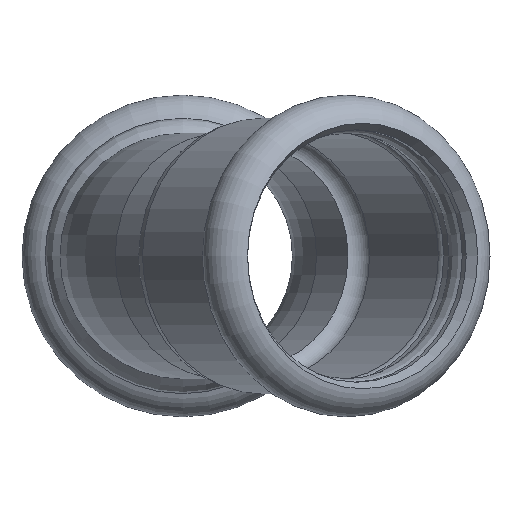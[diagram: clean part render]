
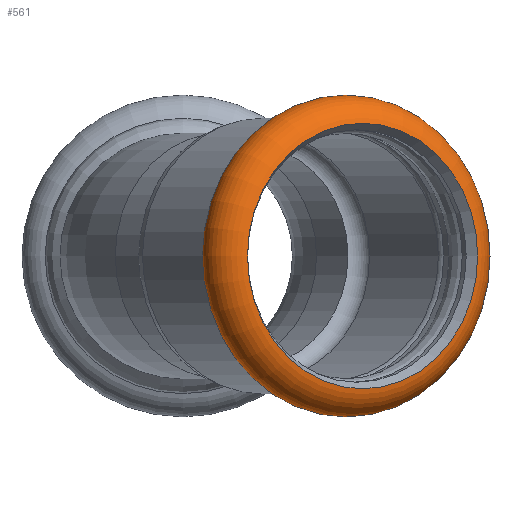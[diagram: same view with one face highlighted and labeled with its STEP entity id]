
A CAD part, left-side view. The second image highlights one B-rep face of the part: STEP entity #561.
In plain terms, the highlighted toroidal (fillet/blend) face has major radius 14.597 mm and minor radius 3.755 mm.
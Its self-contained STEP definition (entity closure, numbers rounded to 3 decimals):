
#57=FACE_OUTER_BOUND('',#83,.T.);
#83=EDGE_LOOP('',(#357,#358,#359,#360,#361,#362,#363,#364));
#109=CIRCLE('',#608,15.15);
#110=CIRCLE('',#609,3.755);
#111=CIRCLE('',#610,15.7);
#112=CIRCLE('',#611,15.7);
#113=CIRCLE('',#612,15.7);
#114=CIRCLE('',#613,15.15);
#115=CIRCLE('',#614,15.15);
#191=VERTEX_POINT('',#949);
#192=VERTEX_POINT('',#950);
#193=VERTEX_POINT('',#952);
#194=VERTEX_POINT('',#954);
#195=VERTEX_POINT('',#956);
#196=VERTEX_POINT('',#959);
#261=EDGE_CURVE('',#191,#192,#109,.T.);
#262=EDGE_CURVE('',#192,#193,#110,.T.);
#263=EDGE_CURVE('',#194,#193,#111,.T.);
#264=EDGE_CURVE('',#195,#194,#112,.T.);
#265=EDGE_CURVE('',#193,#195,#113,.T.);
#266=EDGE_CURVE('',#192,#196,#114,.T.);
#267=EDGE_CURVE('',#196,#191,#115,.T.);
#357=ORIENTED_EDGE('',*,*,#261,.T.);
#358=ORIENTED_EDGE('',*,*,#262,.T.);
#359=ORIENTED_EDGE('',*,*,#263,.F.);
#360=ORIENTED_EDGE('',*,*,#264,.F.);
#361=ORIENTED_EDGE('',*,*,#265,.F.);
#362=ORIENTED_EDGE('',*,*,#262,.F.);
#363=ORIENTED_EDGE('',*,*,#266,.T.);
#364=ORIENTED_EDGE('',*,*,#267,.T.);
#549=TOROIDAL_SURFACE('',#607,14.597,3.755);
#561=ADVANCED_FACE('',(#57),#549,.T.);
#607=AXIS2_PLACEMENT_3D('',#948,#717,#718);
#608=AXIS2_PLACEMENT_3D('',#951,#719,#720);
#609=AXIS2_PLACEMENT_3D('',#953,#721,#722);
#610=AXIS2_PLACEMENT_3D('',#955,#723,#724);
#611=AXIS2_PLACEMENT_3D('',#957,#725,#726);
#612=AXIS2_PLACEMENT_3D('',#958,#727,#728);
#613=AXIS2_PLACEMENT_3D('',#960,#729,#730);
#614=AXIS2_PLACEMENT_3D('',#961,#731,#732);
#717=DIRECTION('center_axis',(-0.866,-0.5,0.));
#718=DIRECTION('ref_axis',(0.,0.,-1.));
#719=DIRECTION('center_axis',(0.866,0.5,0.));
#720=DIRECTION('ref_axis',(-0.5,0.866,0.));
#721=DIRECTION('center_axis',(-0.5,0.866,0.));
#722=DIRECTION('ref_axis',(0.,0.,1.));
#723=DIRECTION('center_axis',(0.866,0.5,0.));
#724=DIRECTION('ref_axis',(-0.5,0.866,0.));
#725=DIRECTION('center_axis',(0.866,0.5,0.));
#726=DIRECTION('ref_axis',(-0.5,0.866,0.));
#727=DIRECTION('center_axis',(0.866,0.5,0.));
#728=DIRECTION('ref_axis',(-0.5,0.866,0.));
#729=DIRECTION('center_axis',(0.866,0.5,0.));
#730=DIRECTION('ref_axis',(-0.5,0.866,0.));
#731=DIRECTION('center_axis',(0.866,0.5,0.));
#732=DIRECTION('ref_axis',(-0.5,0.866,0.));
#948=CARTESIAN_POINT('Origin',(-73.291,-18.643,0.));
#949=CARTESIAN_POINT('',(-84.082,-7.38,0.));
#950=CARTESIAN_POINT('',(-76.507,-20.5,15.15));
#951=CARTESIAN_POINT('Origin',(-76.507,-20.5,0.));
#952=CARTESIAN_POINT('',(-70.182,-16.848,15.7));
#953=CARTESIAN_POINT('Origin',(-73.291,-18.643,14.597));
#954=CARTESIAN_POINT('',(-78.032,-3.252,0.));
#955=CARTESIAN_POINT('Origin',(-70.182,-16.848,0.));
#956=CARTESIAN_POINT('',(-62.332,-30.445,0.));
#957=CARTESIAN_POINT('Origin',(-70.182,-16.848,0.));
#958=CARTESIAN_POINT('Origin',(-70.182,-16.848,0.));
#959=CARTESIAN_POINT('',(-68.932,-33.62,0.));
#960=CARTESIAN_POINT('Origin',(-76.507,-20.5,0.));
#961=CARTESIAN_POINT('Origin',(-76.507,-20.5,0.));
